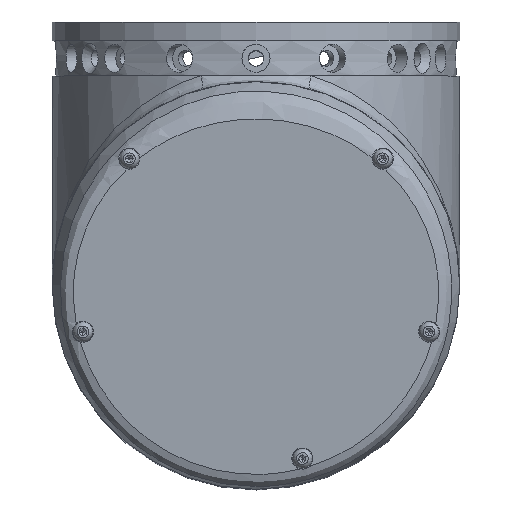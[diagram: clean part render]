
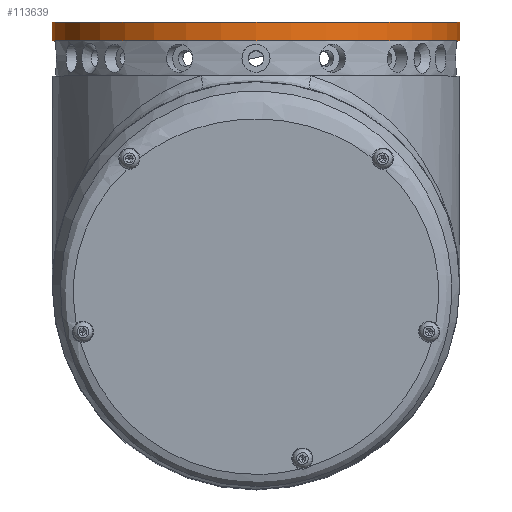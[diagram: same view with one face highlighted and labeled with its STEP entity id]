
A CAD part, top view. The second image highlights one B-rep face of the part: STEP entity #113639.
In plain terms, the highlighted cylindrical face has radius 58 mm (diameter 116 mm), a full revolution.
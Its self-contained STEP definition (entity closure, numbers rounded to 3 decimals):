
#8819 = VERTEX_POINT ( 'NONE', #120778 ) ;
#11958 = EDGE_LOOP ( 'NONE', ( #31470 ) ) ;
#31470 = ORIENTED_EDGE ( 'NONE', *, *, #122287, .T. ) ;
#42394 = CYLINDRICAL_SURFACE ( 'NONE', #137106, 58. ) ;
#96494 = DIRECTION ( 'NONE',  ( 0., 1., 0. ) ) ;
#106220 = CIRCLE ( 'NONE', #146323, 58. ) ;
#106306 = CARTESIAN_POINT ( 'NONE',  ( 0., -58.001, 58. ) ) ;
#113639 = ADVANCED_FACE ( 'NONE', ( #136661, #167008 ), #42394, .T. ) ;
#117838 = DIRECTION ( 'NONE',  ( 0., 0., 1. ) ) ;
#120445 = ORIENTED_EDGE ( 'NONE', *, *, #170814, .F. ) ;
#120778 = CARTESIAN_POINT ( 'NONE',  ( 0., 75., 116. ) ) ;
#122287 = EDGE_CURVE ( 'NONE', #191340, #191340, #106220, .T. ) ;
#125752 = DIRECTION ( 'NONE',  ( 0., 1., 0. ) ) ;
#133552 = DIRECTION ( 'NONE',  ( 0., 1., 0. ) ) ;
#136661 = FACE_OUTER_BOUND ( 'NONE', #11958, .T. ) ;
#137106 = AXIS2_PLACEMENT_3D ( 'NONE', #106306, #133552, #117838 ) ;
#139141 = CIRCLE ( 'NONE', #152620, 58. ) ;
#139370 = DIRECTION ( 'NONE',  ( 0., 0., 1. ) ) ;
#143522 = CARTESIAN_POINT ( 'NONE',  ( 0., 75., 58. ) ) ;
#146323 = AXIS2_PLACEMENT_3D ( 'NONE', #163583, #125752, #139370 ) ;
#152620 = AXIS2_PLACEMENT_3D ( 'NONE', #143522, #96494, #160259 ) ;
#158265 = EDGE_LOOP ( 'NONE', ( #120445 ) ) ;
#160259 = DIRECTION ( 'NONE',  ( 0., 0., 1. ) ) ;
#163583 = CARTESIAN_POINT ( 'NONE',  ( 0., 69.7, 58. ) ) ;
#167008 = FACE_OUTER_BOUND ( 'NONE', #158265, .T. ) ;
#170814 = EDGE_CURVE ( 'NONE', #8819, #8819, #139141, .T. ) ;
#189275 = CARTESIAN_POINT ( 'NONE',  ( 0., 69.7, 116. ) ) ;
#191340 = VERTEX_POINT ( 'NONE', #189275 ) ;
